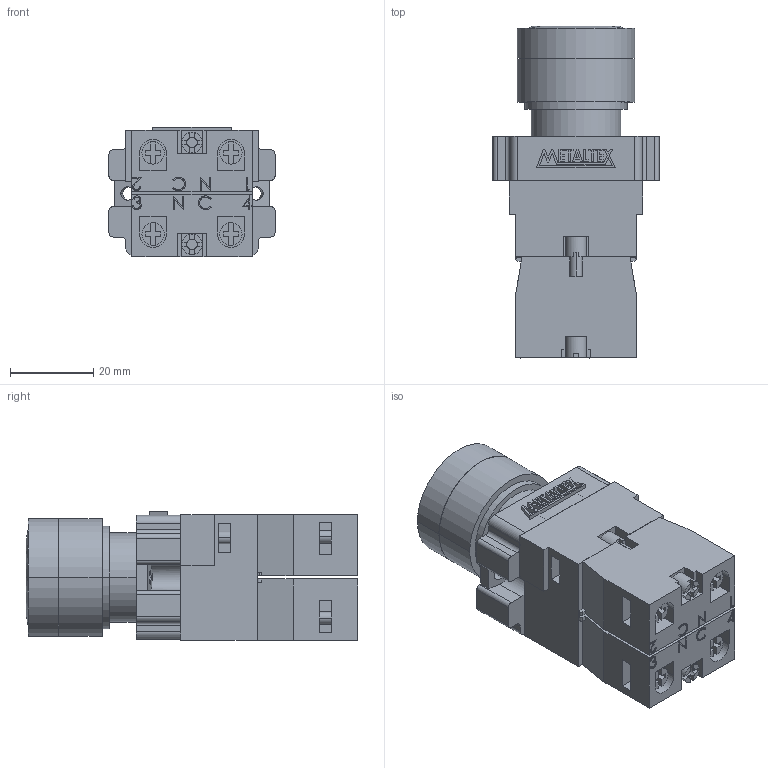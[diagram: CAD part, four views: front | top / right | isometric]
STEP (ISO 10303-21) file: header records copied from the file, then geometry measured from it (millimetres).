
FILE_DESCRIPTION (( 'STEP AP203' ), '1' );
FILE_NAME ('M20IGR-G-1C.STEP', '2018-01-17T13:50:33', ( '' ), ( '' ), 'SwSTEP 2.0', 'SolidWorks 2012', '' );
FILE_SCHEMA (( 'CONFIG_CONTROL_DESIGN' ));
Length unit declared in the file: millimetre
Products named in the file (6): M20IGR; M20-IL; M20-1B; M20-1A; METALTEX 18,98; M20IGR-G-1C
Assembly tree (5 placements, depth 2):
  M20IGR-G-1C
    M20IGR
    M20-IL
    M20-1B
    M20-1A
    METALTEX 18,98
Bounding box: 40 x 79.97 x 31.2 mm (x, y, z)
Volume: 60209.2 mm3; surface area: 22194.3 mm2
Topology: 11 solids, 11 shells, 683 faces, 1788 edges, 1185 vertices
Faces by surface type: plane 487, cylinder 140, bspline 40, torus 16
Entity records: 23758 total; most frequent: CARTESIAN_POINT 6158, ORIENTED_EDGE 3572, DIRECTION 3402, EDGE_CURVE 1786, LINE 1300, VECTOR 1300, VERTEX_POINT 1185, AXIS2_PLACEMENT_3D 1051
